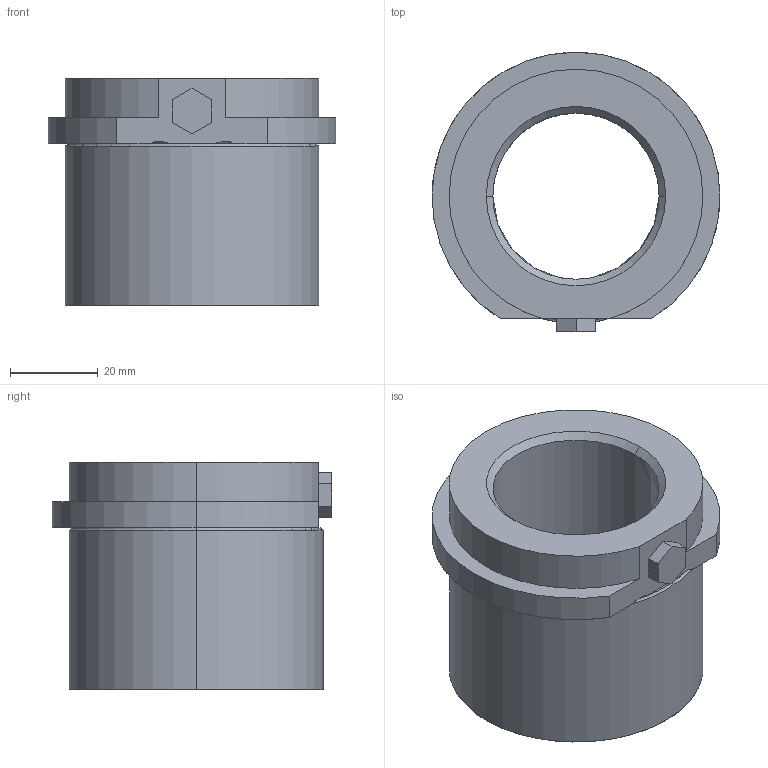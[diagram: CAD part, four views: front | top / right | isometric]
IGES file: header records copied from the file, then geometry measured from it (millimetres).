
Start section: START RECORD GO HERE.
Global section: file name: 740-38.igs; native system: DASSAULT SYSTEMES CATIA V5 R20 - www.3ds.com; preprocessor: CATIA Version 5 Release 20 ; author: Utente; organization: NB04-ASUS; date: 20210118.203459; units: millimetre
Bounding box: 65.8 x 63.9 x 52 mm (x, y, z)
Surface area: 20419 mm2 (no closed solid volume)
Topology: 0 solids, 0 shells, 35 faces, 176 edges, 176 vertices
Faces by surface type: revolution 21, plane 14
